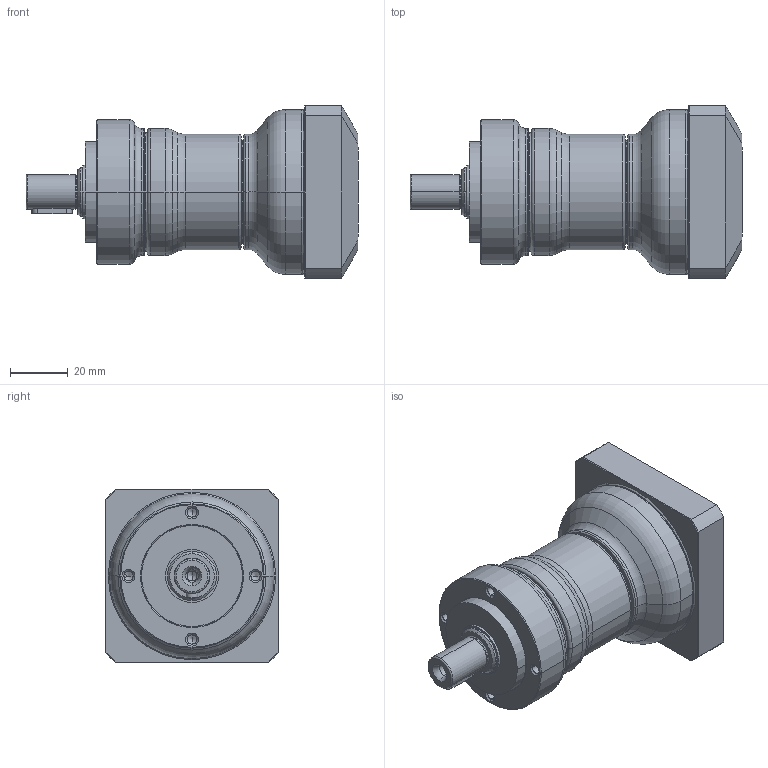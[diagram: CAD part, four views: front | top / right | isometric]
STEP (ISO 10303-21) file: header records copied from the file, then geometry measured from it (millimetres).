
FILE_DESCRIPTION((''),'2;1');
FILE_NAME('PE2-050_2ST_11-P0411200101_ASM','2017-06-01T',('d01943'),(''),'PRO/ENGINEER BY PARAMETRIC TECHNOLOGY CORPORATION, 2008410','PRO/ENGINEER BY PARAMETRIC TECHNOLOGY CORPORATION, 2008410','');
FILE_SCHEMA(('CONFIG_CONTROL_DESIGN'));
Length unit declared in the file: millimetre
Products named in the file (9): P1323100001; P0251100001; P1324100101; P0350101001; P0941101001; P0503200005; P0411200101; P1702300001; PE2-050_2ST_11-P0411200101_ASM
Assembly tree (8 placements, depth 2):
  PE2-050_2ST_11-P0411200101_ASM
    P1323100001
    P0251100001
    P1324100101
    P0350101001
    P0941101001
    P0503200005
    P0411200101
    P1702300001
Bounding box: 115 x 60 x 60 mm (x, y, z)
Volume: 130323.9 mm3; surface area: 52668.5 mm2
Topology: 8 solids, 8 shells, 460 faces, 1012 edges, 580 vertices
Faces by surface type: cone 138, cylinder 134, torus 96, plane 76, bspline 16
Entity records: 17190 total; most frequent: CARTESIAN_POINT 6858, DIRECTION 2351, ORIENTED_EDGE 1960, AXIS2_PLACEMENT_3D 1009, EDGE_CURVE 980, VERTEX_POINT 580, CIRCLE 548, EDGE_LOOP 520
